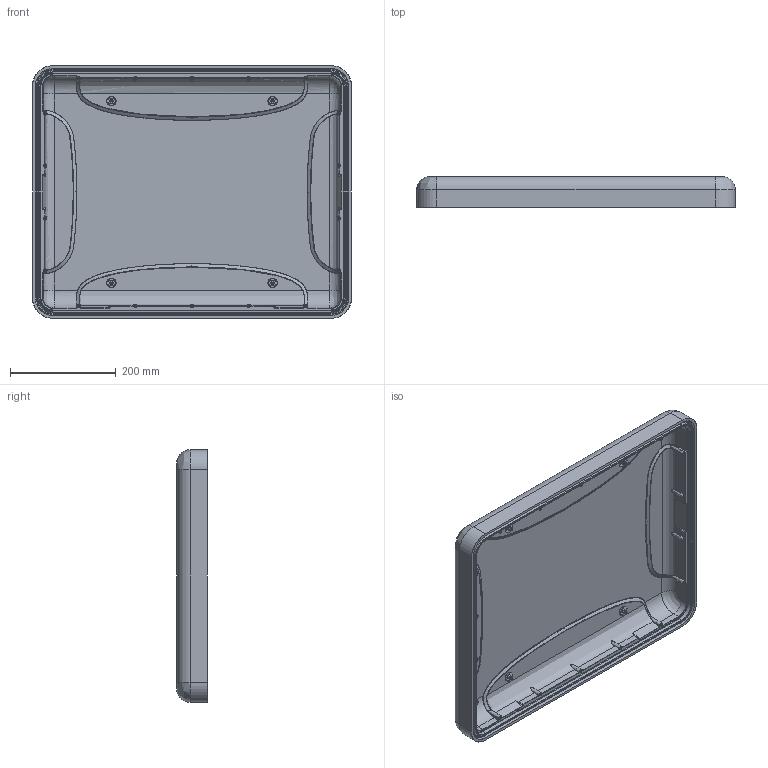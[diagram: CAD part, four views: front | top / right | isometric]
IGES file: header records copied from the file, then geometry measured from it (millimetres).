
Start section: SolidWorks IGES file using analytic representation for surfaces
Global section: file name: Z:\Share\NANUK\Solidworks\3D\Cases\960\4 - 3D FILES\4 - Inner Surfaces\960_top_INNER SURFACES.IGS; native system: SolidWorks 2018; preprocessor: SolidWorks 2018; author: scharria; date: 200121.092314; units: inch
Bounding box: 602.99 x 57.84 x 477.52 mm (x, y, z)
Surface area: 794745.7 mm2 (no closed solid volume)
Topology: 0 solids, 0 shells, 1004 faces, 14478 edges, 14472 vertices
Faces by surface type: bspline 779, revolution 225
